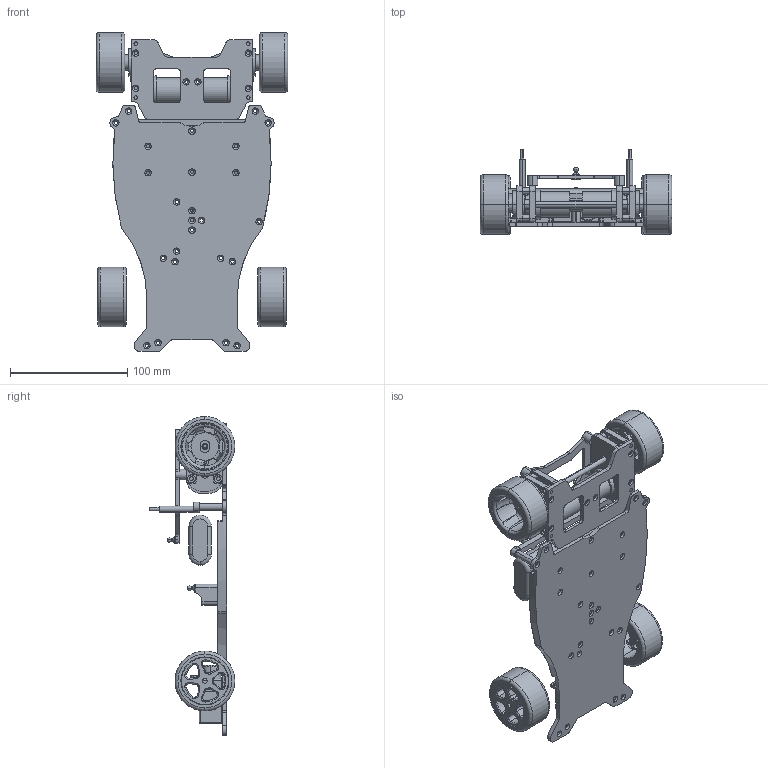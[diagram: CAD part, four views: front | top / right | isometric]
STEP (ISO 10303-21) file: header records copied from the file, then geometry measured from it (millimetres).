
FILE_DESCRIPTION (( 'STEP AP203' ), '1' );
FILE_NAME ('_chassis.STEP', '2014-01-31T04:04:35', ( '' ), ( '' ), 'SwSTEP 2.0', 'SolidWorks 2013', '' );
FILE_SCHEMA (( 'CONFIG_CONTROL_DESIGN' ));
Length unit declared in the file: centimetre
Products named in the file (25): chassis_back_mount; chassis_back_mount_standoff; chassis_rear_plate_bottom; _chassis; chassis_rear_plate_top; chassis_back_axle; chassis_gear_24T; chassis_gearbox_plate_inner; chassis_battery; chassis_gearbox_plate_outer; chassis_shock_mount; chassis_main_base; chassis_gear_10T-28T; chassis_tire; chassis_wheel_center_back; chassis_ball_end; bearing_10mm; chassis_wheel_center_front; Mirrorchassis_gearbox_plate_inner; chassis_d_shaft; _chassis_wheel_rear; _chassis_wheel_front; Mirrorchassis_gearbox_plate_outer; chassis_servo; chassis_motor
Assembly tree (34 placements, depth 3):
  _chassis
    chassis_battery
    chassis_servo
    chassis_shock_mount
    chassis_ball_end  x2
    _chassis_wheel_front  x2
      chassis_wheel_center_front
      chassis_tire
    chassis_main_base
    chassis_back_mount_standoff  x2
    chassis_back_mount
    chassis_gearbox_plate_outer
    chassis_back_axle
    _chassis_wheel_rear  x2
      chassis_wheel_center_back
      chassis_tire
    chassis_motor  x2
    chassis_rear_plate_bottom
    chassis_rear_plate_top
    chassis_gearbox_plate_inner
    bearing_10mm  x2
    chassis_gear_10T-28T  x2
    chassis_gear_24T  x2
    chassis_d_shaft  x2
    Mirrorchassis_gearbox_plate_inner
    Mirrorchassis_gearbox_plate_outer
Bounding box: 163.5 x 73 x 272 mm (x, y, z)
Volume: 418202.3 mm3; surface area: 202676 mm2
Topology: 34 solids, 34 shells, 1624 faces, 4060 edges, 2506 vertices
Faces by surface type: cylinder 824, plane 435, torus 227, cone 88, sphere 30, bspline 20
Entity records: 41562 total; most frequent: CARTESIAN_POINT 7528, DIRECTION 7131, ORIENTED_EDGE 6174, EDGE_CURVE 3087, AXIS2_PLACEMENT_3D 2869, VERTEX_POINT 1942, CIRCLE 1602, EDGE_LOOP 1459
